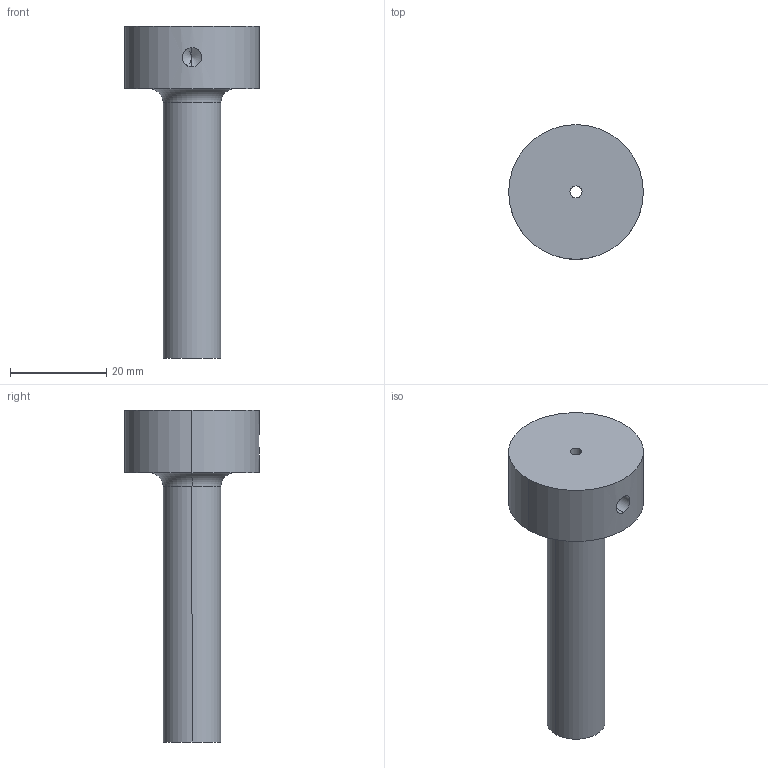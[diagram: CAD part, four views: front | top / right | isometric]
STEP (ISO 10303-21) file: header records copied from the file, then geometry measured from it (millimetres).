
FILE_DESCRIPTION (( 'STEP AP214' ), '1' );
FILE_NAME ('IMC-I3-12x56-2,5-0,5°.STEP', '2023-01-09T11:22:33', ( '' ), ( '' ), 'SwSTEP 2.0', 'SolidWorks 2019', '' );
FILE_SCHEMA (( 'AUTOMOTIVE_DESIGN' ));
Length unit declared in the file: millimetre
Products named in the file (1): IMC-I3-12x56-2,5-0,5°
Bounding box: 28 x 28 x 69 mm (x, y, z)
Volume: 13730.7 mm3; surface area: 5252.5 mm2
Topology: 1 solids, 1 shells, 19 faces, 44 edges, 25 vertices
Faces by surface type: cylinder 8, cone 6, plane 3, torus 2
Entity records: 606 total; most frequent: CARTESIAN_POINT 139, DIRECTION 102, ORIENTED_EDGE 80, AXIS2_PLACEMENT_3D 44, EDGE_CURVE 40, VERTEX_POINT 25, CIRCLE 24, EDGE_LOOP 23
